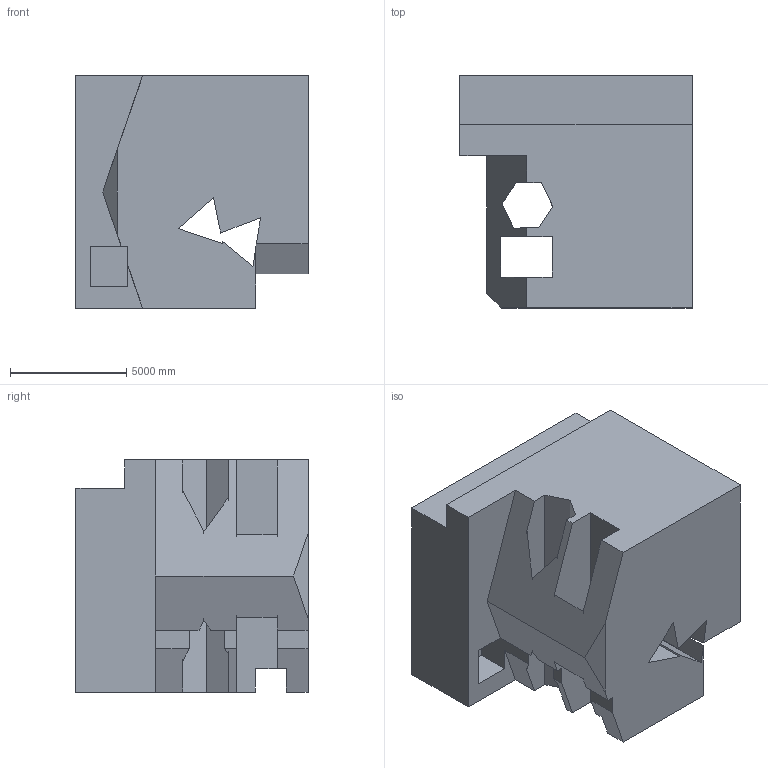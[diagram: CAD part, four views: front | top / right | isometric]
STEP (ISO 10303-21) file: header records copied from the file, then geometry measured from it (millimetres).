
FILE_DESCRIPTION (( 'STEP AP203' ), '1' );
FILE_NAME ('1997.STEP', '2022-08-23T10:25:33', ( 'user' ), ( '' ), 'SwSTEP 2.0', 'SolidWorks 2021', '' );
FILE_SCHEMA (( 'CONFIG_CONTROL_DESIGN' ));
Length unit declared in the file: centimetre
Products named in the file (1): 1997
Bounding box: 10000 x 10000 x 10000 mm (x, y, z)
Volume: 686581332394.9 mm3; surface area: 758927276.8 mm2
Topology: 1 solids, 1 shells, 47 faces, 150 edges, 100 vertices
Faces by surface type: plane 47
Entity records: 1713 total; most frequent: ORIENTED_EDGE 300, CARTESIAN_POINT 298, DIRECTION 246, EDGE_CURVE 150, LINE 150, VECTOR 150, VERTEX_POINT 100, EDGE_LOOP 48
